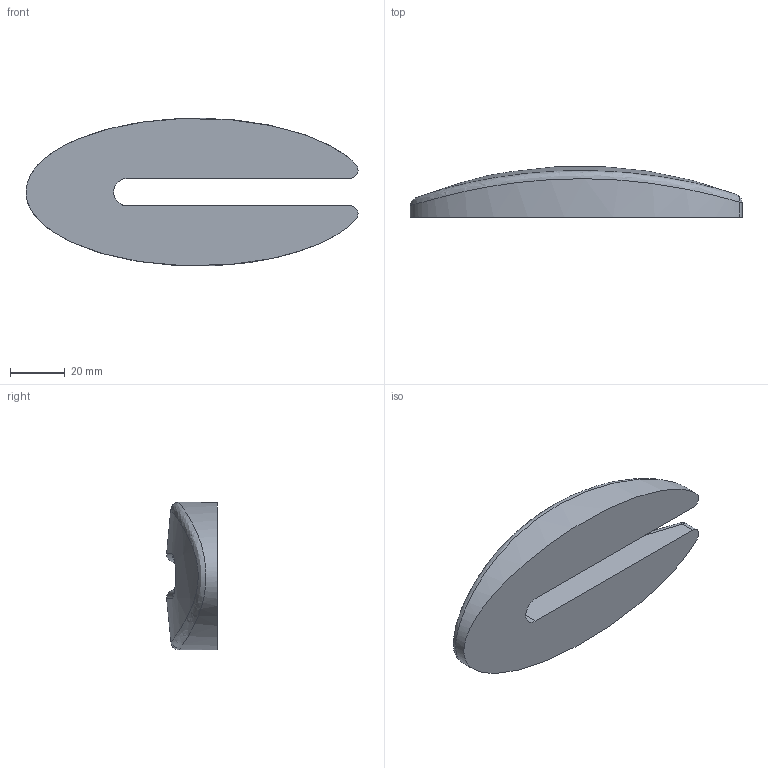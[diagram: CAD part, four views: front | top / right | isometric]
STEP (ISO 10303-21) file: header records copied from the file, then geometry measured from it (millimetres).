
FILE_DESCRIPTION(/* description */ ('Alibre Inc.'),/* implementation_level */ '2;1');
FILE_NAME(/* name */ 'export0',/* time_stamp */ '2010-05-24T13:05:26+02:00',/* author */ (''),/* organization */ (''),/* preprocessor_version */ 'ST-DEVELOPER v10',/* originating_system */ 'Alibre',/* authorisation */ '');
FILE_SCHEMA (('ALIBRE_SCHEMA','CONFIG_CONTROL_DESIGN'));
Length unit declared in the file: centimetre
Products named in the file (1): ID_1
Bounding box: 120.87 x 18.46 x 53.7 mm (x, y, z)
Volume: 64652.9 mm3; surface area: 14753.7 mm2
Topology: 1 solids, 1 shells, 14 faces, 28 edges, 16 vertices
Faces by surface type: sphere 3, plane 3, cylinder 3, torus 2, bspline 2, extrusion 1
Entity records: 1500 total; most frequent: CARTESIAN_POINT 519, DIRECTION 95, PERSISTANTTOPOLOGYATTRIBUTE 70, CONSTRAINTPAIRUV 64, ORIENTED_EDGE 56, REFERENCEDEPENDENTUV 46, VECTOR 34, AXIS2_PLACEMENT_3D 32
